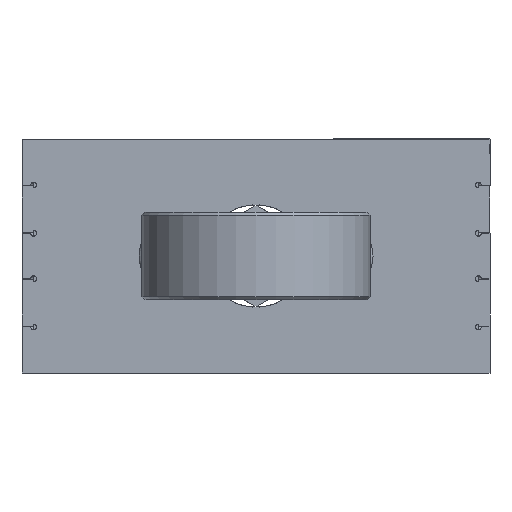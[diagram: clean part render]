
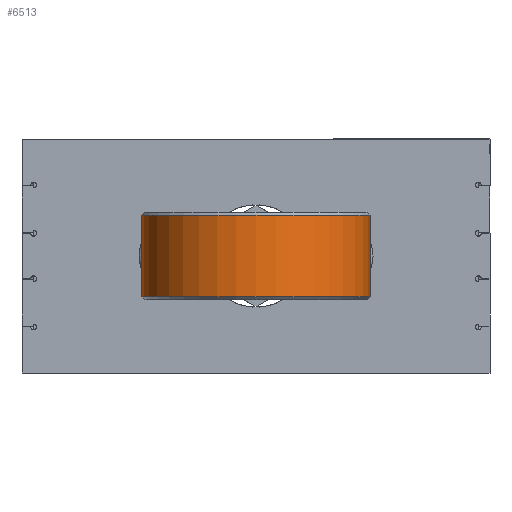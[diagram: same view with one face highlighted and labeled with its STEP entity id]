
A CAD part, front view. The second image highlights one B-rep face of the part: STEP entity #6513.
In plain terms, the highlighted cylindrical face has radius 39 mm (diameter 78 mm), a full revolution.
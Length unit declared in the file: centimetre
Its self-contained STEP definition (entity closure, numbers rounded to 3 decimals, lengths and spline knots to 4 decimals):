
#38=B_SPLINE_CURVE_WITH_KNOTS('',3,(#10361,#10362,#10363,#10364,#10365,
#10366,#10367,#10368,#10369,#10370),.UNSPECIFIED.,.F.,.F.,(4,2,2,2,4),(0.1576,
0.1993,0.241,0.2786,0.3161),
 .UNSPECIFIED.);
#39=B_SPLINE_CURVE_WITH_KNOTS('',3,(#10374,#10375,#10376,#10377,#10378,
#10379,#10380,#10381,#10382,#10383),.UNSPECIFIED.,.F.,.F.,(4,2,2,2,4),(0.,
0.0375,0.0751,0.1168,0.1585),
 .UNSPECIFIED.);
#40=B_SPLINE_CURVE_WITH_KNOTS('',3,(#10387,#10388,#10389,#10390,#10391,
#10392,#10393,#10394,#10395,#10396),.UNSPECIFIED.,.F.,.F.,(4,2,2,2,4),(-0.1585,
-0.1168,-0.0751,-0.0375,0.),
 .UNSPECIFIED.);
#41=B_SPLINE_CURVE_WITH_KNOTS('',3,(#10399,#10400,#10401,#10402,#10403,
#10404,#10405,#10406,#10407,#10408),.UNSPECIFIED.,.F.,.F.,(4,2,2,2,4),(0.3161,
0.3536,0.3912,0.4329,0.4746),
 .UNSPECIFIED.);
#583=FACE_BOUND('',#1416,.T.);
#584=FACE_BOUND('',#1417,.T.);
#707=CYLINDRICAL_SURFACE('',#7088,3.9);
#978=FACE_OUTER_BOUND('',#1415,.T.);
#1415=EDGE_LOOP('',(#5502));
#1416=EDGE_LOOP('',(#5503,#5504,#5505,#5506,#5507,#5508,#5509,#5510));
#1417=EDGE_LOOP('',(#5511));
#1798=CIRCLE('',#7082,3.9);
#1802=CIRCLE('',#7089,3.9);
#1803=CIRCLE('',#7090,3.9);
#1804=CIRCLE('',#7091,3.9);
#2234=LINE('',#10372,#2754);
#2235=LINE('',#10398,#2755);
#2754=VECTOR('',#8518,2.3);
#2755=VECTOR('',#8521,2.3);
#3288=VERTEX_POINT('',#10346);
#3292=VERTEX_POINT('',#10357);
#3293=VERTEX_POINT('',#10358);
#3294=VERTEX_POINT('',#10360);
#3295=VERTEX_POINT('',#10371);
#3296=VERTEX_POINT('',#10373);
#3297=VERTEX_POINT('',#10384);
#3298=VERTEX_POINT('',#10386);
#3299=VERTEX_POINT('',#10397);
#3300=VERTEX_POINT('',#10409);
#4068=EDGE_CURVE('',#3288,#3288,#1798,.T.);
#4072=EDGE_CURVE('',#3292,#3293,#1802,.T.);
#4073=EDGE_CURVE('',#3294,#3293,#38,.F.);
#4074=EDGE_CURVE('',#3294,#3295,#2234,.T.);
#4075=EDGE_CURVE('',#3296,#3295,#39,.F.);
#4076=EDGE_CURVE('',#3296,#3297,#1803,.T.);
#4077=EDGE_CURVE('',#3298,#3297,#40,.F.);
#4078=EDGE_CURVE('',#3298,#3299,#2235,.T.);
#4079=EDGE_CURVE('',#3292,#3299,#41,.F.);
#4080=EDGE_CURVE('',#3300,#3300,#1804,.T.);
#5502=ORIENTED_EDGE('',*,*,#4068,.F.);
#5503=ORIENTED_EDGE('',*,*,#4072,.T.);
#5504=ORIENTED_EDGE('',*,*,#4073,.F.);
#5505=ORIENTED_EDGE('',*,*,#4074,.T.);
#5506=ORIENTED_EDGE('',*,*,#4075,.F.);
#5507=ORIENTED_EDGE('',*,*,#4076,.T.);
#5508=ORIENTED_EDGE('',*,*,#4077,.F.);
#5509=ORIENTED_EDGE('',*,*,#4078,.T.);
#5510=ORIENTED_EDGE('',*,*,#4079,.F.);
#5511=ORIENTED_EDGE('',*,*,#4080,.F.);
#6513=ADVANCED_FACE('',(#978,#583,#584),#707,.T.);
#7082=AXIS2_PLACEMENT_3D('',#10347,#8502,#8503);
#7088=AXIS2_PLACEMENT_3D('',#10356,#8514,#8515);
#7089=AXIS2_PLACEMENT_3D('',#10359,#8516,#8517);
#7090=AXIS2_PLACEMENT_3D('',#10385,#8519,#8520);
#7091=AXIS2_PLACEMENT_3D('',#10410,#8522,#8523);
#8502=DIRECTION('center_axis',(0.,0.,
1.));
#8503=DIRECTION('ref_axis',(-1.,0.,0.));
#8514=DIRECTION('center_axis',(0.,0.,
1.));
#8515=DIRECTION('ref_axis',(-1.,0.,0.));
#8516=DIRECTION('center_axis',(0.,0.,
-1.));
#8517=DIRECTION('ref_axis',(-1.,0.,0.));
#8518=DIRECTION('',(0.,0.,1.));
#8519=DIRECTION('center_axis',(0.,0.,
1.));
#8520=DIRECTION('ref_axis',(-1.,0.,0.));
#8521=DIRECTION('',(0.,0.,-1.));
#8522=DIRECTION('center_axis',(0.,0.,
-1.));
#8523=DIRECTION('ref_axis',(-1.,0.,0.));
#10346=CARTESIAN_POINT('',(3.3031,-4.6439,1.5771));
#10347=CARTESIAN_POINT('Origin',(-0.5969,-4.6439,1.5771));
#10356=CARTESIAN_POINT('Origin',(-0.5969,-4.6439,-1.3229));
#10357=CARTESIAN_POINT('',(-2.1969,-1.0872,-1.0729));
#10358=CARTESIAN_POINT('',(1.0031,-1.0872,-1.0729));
#10359=CARTESIAN_POINT('Origin',(-0.5969,-4.6439,-1.0729));
#10360=CARTESIAN_POINT('',(1.1031,-1.1339,-0.9729));
#10361=CARTESIAN_POINT('Ctrl Pts',(1.0031,-1.0872,-1.0729));
#10362=CARTESIAN_POINT('Ctrl Pts',(1.0157,-1.0929,-1.0729));
#10363=CARTESIAN_POINT('Ctrl Pts',(1.0293,-1.0991,-1.0703));
#10364=CARTESIAN_POINT('Ctrl Pts',(1.0544,-1.1107,-1.0598));
#10365=CARTESIAN_POINT('Ctrl Pts',(1.066,-1.1161,-1.0517));
#10366=CARTESIAN_POINT('Ctrl Pts',(1.0834,-1.1244,-1.0337));
#10367=CARTESIAN_POINT('Ctrl Pts',(1.0907,-1.1279,-1.0228));
#10368=CARTESIAN_POINT('Ctrl Pts',(1.1006,-1.1327,-0.9986));
#10369=CARTESIAN_POINT('Ctrl Pts',(1.1031,-1.1339,-0.9854));
#10370=CARTESIAN_POINT('Ctrl Pts',(1.1031,-1.1339,-0.9729));
#10371=CARTESIAN_POINT('',(1.1031,-1.1339,1.3271));
#10372=CARTESIAN_POINT('',(1.1031,-1.1339,-1.3229));
#10373=CARTESIAN_POINT('',(1.0031,-1.0872,1.4271));
#10374=CARTESIAN_POINT('Ctrl Pts',(1.1031,-1.1339,1.3271));
#10375=CARTESIAN_POINT('Ctrl Pts',(1.1031,-1.1339,1.3396));
#10376=CARTESIAN_POINT('Ctrl Pts',(1.1006,-1.1327,1.3529));
#10377=CARTESIAN_POINT('Ctrl Pts',(1.0907,-1.1279,1.377));
#10378=CARTESIAN_POINT('Ctrl Pts',(1.0834,-1.1244,1.3879));
#10379=CARTESIAN_POINT('Ctrl Pts',(1.066,-1.1161,1.406));
#10380=CARTESIAN_POINT('Ctrl Pts',(1.0544,-1.1107,1.414));
#10381=CARTESIAN_POINT('Ctrl Pts',(1.0293,-1.0991,1.4246));
#10382=CARTESIAN_POINT('Ctrl Pts',(1.0157,-1.0929,1.4271));
#10383=CARTESIAN_POINT('Ctrl Pts',(1.0031,-1.0872,1.4271));
#10384=CARTESIAN_POINT('',(-2.1969,-1.0872,1.4271));
#10385=CARTESIAN_POINT('Origin',(-0.5969,-4.6439,1.4271));
#10386=CARTESIAN_POINT('',(-2.2969,-1.1339,1.3271));
#10387=CARTESIAN_POINT('Ctrl Pts',(-2.1969,-1.0872,
1.4271));
#10388=CARTESIAN_POINT('Ctrl Pts',(-2.2096,-1.0929,1.4271));
#10389=CARTESIAN_POINT('Ctrl Pts',(-2.2232,-1.0991,
1.4246));
#10390=CARTESIAN_POINT('Ctrl Pts',(-2.2483,-1.1107,
1.414));
#10391=CARTESIAN_POINT('Ctrl Pts',(-2.2599,-1.1161,1.406));
#10392=CARTESIAN_POINT('Ctrl Pts',(-2.2773,-1.1244,
1.3879));
#10393=CARTESIAN_POINT('Ctrl Pts',(-2.2846,-1.1279,
1.377));
#10394=CARTESIAN_POINT('Ctrl Pts',(-2.2945,-1.1327,
1.3529));
#10395=CARTESIAN_POINT('Ctrl Pts',(-2.2969,-1.1339,
1.3396));
#10396=CARTESIAN_POINT('Ctrl Pts',(-2.2969,-1.1339,
1.3271));
#10397=CARTESIAN_POINT('',(-2.2969,-1.1339,-0.9729));
#10398=CARTESIAN_POINT('',(-2.2969,-1.1339,-1.3229));
#10399=CARTESIAN_POINT('Ctrl Pts',(-2.2969,-1.1339,
-0.9729));
#10400=CARTESIAN_POINT('Ctrl Pts',(-2.2969,-1.1339,
-0.9854));
#10401=CARTESIAN_POINT('Ctrl Pts',(-2.2945,-1.1327,
-0.9986));
#10402=CARTESIAN_POINT('Ctrl Pts',(-2.2846,-1.1279,
-1.0228));
#10403=CARTESIAN_POINT('Ctrl Pts',(-2.2773,-1.1244,
-1.0337));
#10404=CARTESIAN_POINT('Ctrl Pts',(-2.2599,-1.1161,-1.0517));
#10405=CARTESIAN_POINT('Ctrl Pts',(-2.2483,-1.1107,
-1.0598));
#10406=CARTESIAN_POINT('Ctrl Pts',(-2.2232,-1.0991,
-1.0703));
#10407=CARTESIAN_POINT('Ctrl Pts',(-2.2096,-1.0929,-1.0729));
#10408=CARTESIAN_POINT('Ctrl Pts',(-2.1969,-1.0872,
-1.0729));
#10409=CARTESIAN_POINT('',(3.3031,-4.6439,-1.2229));
#10410=CARTESIAN_POINT('Origin',(-0.5969,-4.6439,-1.2229));
